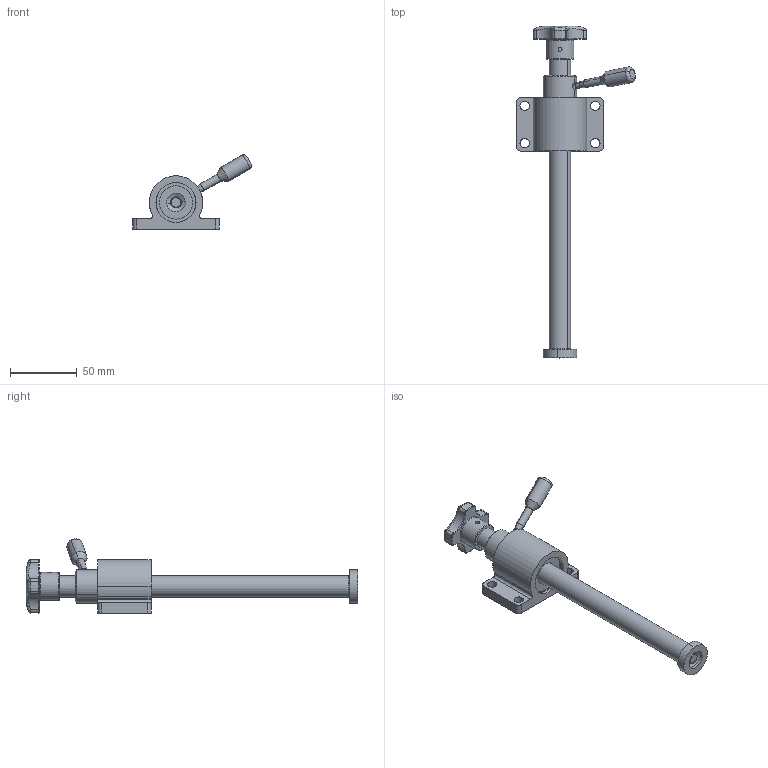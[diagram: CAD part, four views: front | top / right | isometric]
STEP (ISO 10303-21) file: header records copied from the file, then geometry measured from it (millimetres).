
FILE_DESCRIPTION (( 'STEP AP203' ), '1' );
FILE_NAME ('KFR-16.STEP', '2015-07-20T14:08:15', ( 'Ricardo' ), ( '' ), 'SwSTEP 2.0', 'SolidWorks 2014', '' );
FILE_SCHEMA (( 'CONFIG_CONTROL_DESIGN' ));
Length unit declared in the file: millimetre
Products named in the file (13): 12.50121; 13.20002; 15.30011; 20.20056; 18.30005 A; 16.20122; 18.30005 B; KFR-16; 18.30005 C; 15.30012; 02.30027; 15.30013; 15.30014
Assembly tree (12 placements, depth 2):
  KFR-16
    02.30027
    15.30011
    18.30005 A
    18.30005 B
    18.30005 C
    15.30012
    15.30013
    15.30014
    12.50121
    13.20002
    20.20056
    16.20122
Bounding box: 88.98 x 248.85 x 55.69 mm (x, y, z)
Volume: 115965.4 mm3; surface area: 48415.4 mm2
Topology: 12 solids, 12 shells, 465 faces, 1219 edges, 783 vertices
Faces by surface type: cylinder 175, bspline 122, plane 91, cone 38, torus 31, sphere 8
Entity records: 133616 total; most frequent: CARTESIAN_POINT 122009, ORIENTED_EDGE 2438, DIRECTION 1829, EDGE_CURVE 1219, VERTEX_POINT 783, AXIS2_PLACEMENT_3D 721, EDGE_LOOP 498, FACE_OUTER_BOUND 465
